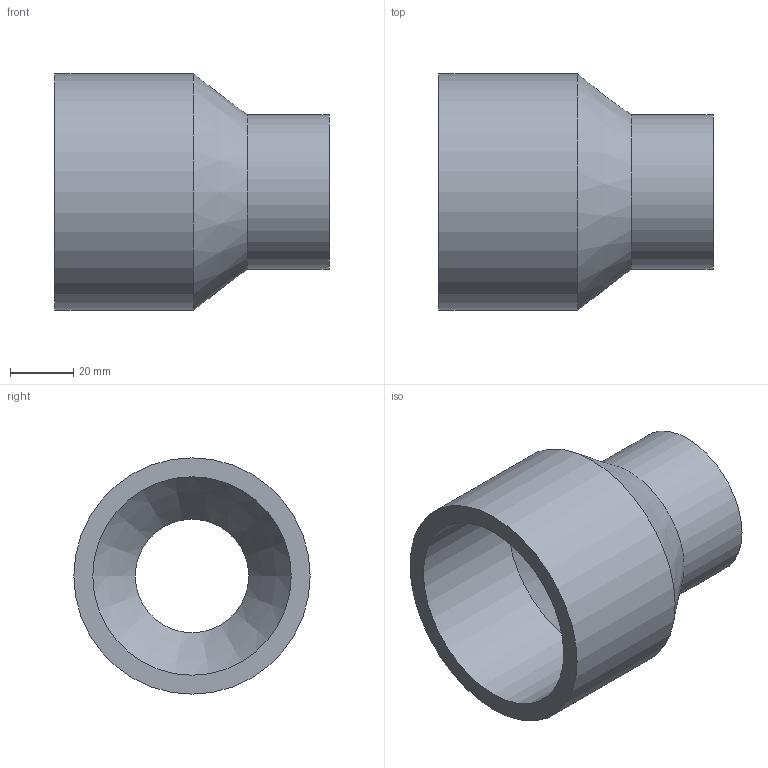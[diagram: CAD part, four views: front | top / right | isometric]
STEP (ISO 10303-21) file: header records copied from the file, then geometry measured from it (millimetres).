
FILE_DESCRIPTION(/* description */ ('PLASSON REDUCING SOCKET M.F.75(63)40 CEMENTED'),/* implementation_level */ '2;1');
FILE_NAME(/* name */ 'C:\Dropbox\KIMPROJECTS-Inventor\99-16-3568-Processing\PVC Catalog 2017\050200\050200075040.ipt.stp',/* time_stamp */ '2017-12-07T15:52:42+02:00',/* author */ ('KIM'),/* organization */ (''),/* preprocessor_version */ 'ST-DEVELOPER v15.6',/* originating_system */ 'Autodesk Inventor 2015',/* authorisation */ '');
FILE_SCHEMA (('AUTOMOTIVE_DESIGN { 1 0 10303 214 3 1 1 }'));
Length unit declared in the file: millimetre
Products named in the file (1): 050200075040
Bounding box: 87 x 75 x 75 mm (x, y, z)
Volume: 104106.3 mm3; surface area: 35555.5 mm2
Topology: 1 solids, 1 shells, 10 faces, 17 edges, 10 vertices
Faces by surface type: cylinder 5, plane 3, cone 2
Full cylindrical faces by diameter (mm): 36 x1, 40 x1, 49 x1, 63 x1, 75 x1
Entity records: 232 total; most frequent: DIRECTION 42, CARTESIAN_POINT 31, AXIS2_PLACEMENT_3D 21, EDGE_LOOP 20, ORIENTED_EDGE 20, FACE_BOUND 10, FACE_OUTER_BOUND 10, CIRCLE 10
